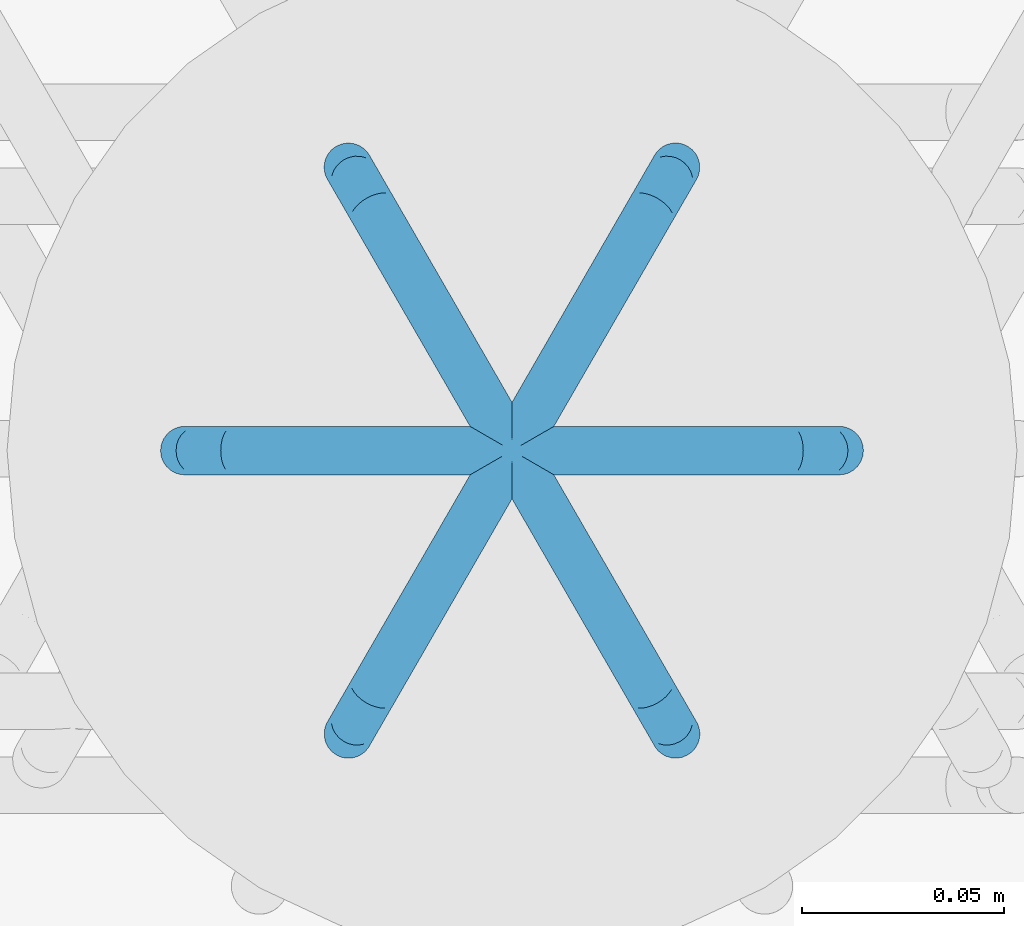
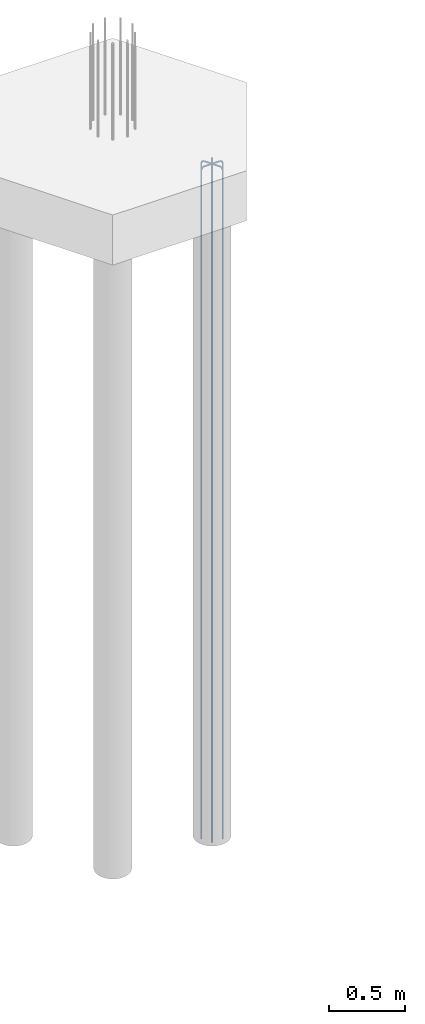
# One storey, part 13 of 23: 1 reinforcing bar.
"""IFC2X3 building model written with IfcOpenShell, lengths in metres."""

from ifc_helpers import new_model, entity, si_unit, direction, frame, origin, place, context, subcontext, project, spatial, shape, source, transform, mapped, element, save


model = new_model("IFC2X3")

# Units and contexts
model_context = context("Model", 3, precision=0.0, world=origin(), true_north=direction((0.0, 1.0)))
plan_context = context("Plan", 3, precision=0.0, world=origin(), true_north=direction((0.0, 1.0)))
body_context = subcontext(model_context, "Body", "Model", "MODEL_VIEW", scale=1.0)
ifc_project = project(units=[si_unit("LENGTHUNIT", "METRE"), si_unit("AREAUNIT", "SQUARE_METRE"), si_unit("VOLUMEUNIT", "CUBIC_METRE"), si_unit("PLANEANGLEUNIT", "RADIAN"), si_unit("THERMODYNAMICTEMPERATUREUNIT", "DEGREE_CELSIUS"), si_unit("FORCEUNIT", "NEWTON"), si_unit("MASSUNIT", "GRAM", prefix="KILO")], contexts=[model_context, plan_context])

# Site, building, storey
placement = place(None, origin())
site = spatial("IfcSite", under=ifc_project, at=placement, Name="Default Site", CompositionType="ELEMENT")
building = spatial("IfcBuilding", under=site, at=placement, Name="Default Building", CompositionType="ELEMENT")
storey_placement = place(placement, frame((0.0, 0.0, 0.0), z_axis=(1.0, 0.0, 0.0), x_axis=(0.0, 0.0, 1.0)))
storey = spatial("IfcBuildingStorey", under=building, at=storey_placement, Name="Piano 0", CompositionType="ELEMENT", Elevation=0.0)

# Reinforcing bar
shared_shape_1 = source(origin(), body_context, None, "AdvancedSweptSolid", [
    entity("IfcSweptDiskSolid", entity("IfcCompositeCurve", [entity("IfcCompositeCurveSegment", "CONTINUOUS", True, entity("IfcPolyline", [entity("IfcCartesianPoint", [0.0, 0.0, 0.0]), entity("IfcCartesianPoint", [-0.096, 0.0, 0.0]), entity("IfcCartesianPoint", [-0.108, 0.0, -0.003215]), entity("IfcCartesianPoint", [-0.116785, 0.0, -0.012]), entity("IfcCartesianPoint", [-0.12, 0.0, -0.024]), entity("IfcCartesianPoint", [-0.12, 0.0, -5.366])]))], False), 0.006, 0.0, 0.0),
])
shared_shape_2 = source(origin(), body_context, None, "AdvancedSweptSolid", [
    entity("IfcSweptDiskSolid", entity("IfcCompositeCurve", [entity("IfcCompositeCurveSegment", "CONTINUOUS", True, entity("IfcPolyline", [entity("IfcCartesianPoint", [0.0, 0.0, 0.0]), entity("IfcCartesianPoint", [-0.096, 0.0, 0.0]), entity("IfcCartesianPoint", [-0.108, 0.0, -0.003215]), entity("IfcCartesianPoint", [-0.116785, 0.0, -0.012]), entity("IfcCartesianPoint", [-0.12, 0.0, -0.024]), entity("IfcCartesianPoint", [-0.12, 0.0, -5.366])]))], False), 0.006, 0.0, 0.0),
])
shared_shape_3 = source(origin(), body_context, None, "AdvancedSweptSolid", [
    entity("IfcSweptDiskSolid", entity("IfcCompositeCurve", [entity("IfcCompositeCurveSegment", "CONTINUOUS", True, entity("IfcPolyline", [entity("IfcCartesianPoint", [0.0, 0.0, 0.0]), entity("IfcCartesianPoint", [-0.096, 0.0, 0.0]), entity("IfcCartesianPoint", [-0.108, 0.0, -0.003215]), entity("IfcCartesianPoint", [-0.116785, 0.0, -0.012]), entity("IfcCartesianPoint", [-0.12, 0.0, -0.024]), entity("IfcCartesianPoint", [-0.12, 0.0, -5.366])]))], False), 0.006, 0.0, 0.0),
])
shared_shape_4 = source(origin(), body_context, None, "AdvancedSweptSolid", [
    entity("IfcSweptDiskSolid", entity("IfcCompositeCurve", [entity("IfcCompositeCurveSegment", "CONTINUOUS", True, entity("IfcPolyline", [entity("IfcCartesianPoint", [0.0, 0.0, 0.0]), entity("IfcCartesianPoint", [-0.096, 0.0, 0.0]), entity("IfcCartesianPoint", [-0.108, 0.0, -0.003215]), entity("IfcCartesianPoint", [-0.116785, 0.0, -0.012]), entity("IfcCartesianPoint", [-0.12, 0.0, -0.024]), entity("IfcCartesianPoint", [-0.12, 0.0, -5.366])]))], False), 0.006, 0.0, 0.0),
])
shared_shape_5 = source(origin(), body_context, None, "AdvancedSweptSolid", [
    entity("IfcSweptDiskSolid", entity("IfcCompositeCurve", [entity("IfcCompositeCurveSegment", "CONTINUOUS", True, entity("IfcPolyline", [entity("IfcCartesianPoint", [0.0, 0.0, 0.0]), entity("IfcCartesianPoint", [-0.096, 0.0, 0.0]), entity("IfcCartesianPoint", [-0.108, 0.0, -0.003215]), entity("IfcCartesianPoint", [-0.116785, 0.0, -0.012]), entity("IfcCartesianPoint", [-0.12, 0.0, -0.024]), entity("IfcCartesianPoint", [-0.12, 0.0, -5.366])]))], False), 0.006, 0.0, 0.0),
])
shared_shape_6 = source(origin(), body_context, None, "AdvancedSweptSolid", [
    entity("IfcSweptDiskSolid", entity("IfcCompositeCurve", [entity("IfcCompositeCurveSegment", "CONTINUOUS", True, entity("IfcPolyline", [entity("IfcCartesianPoint", [0.0, 0.0, 0.0]), entity("IfcCartesianPoint", [-0.096, 0.0, 0.0]), entity("IfcCartesianPoint", [-0.108, 0.0, -0.003215]), entity("IfcCartesianPoint", [-0.116785, 0.0, -0.012]), entity("IfcCartesianPoint", [-0.12, 0.0, -0.024]), entity("IfcCartesianPoint", [-0.12, 0.0, -5.366])]))], False), 0.006, 0.0, 0.0),
])
element("IfcReinforcingBar", 1, at=placement, inside=storey, Name="Arm Principale; Palo:6 Filo:3 [Piano:0]", BarLength=32.916, BarRole="MAIN", BarSurface="TEXTURED", NominalDiameter=0.012, shapes=[
    shape(body_context, None, "MappedRepresentation", [mapped(shared_shape_1, transform((8.414, -0.65, -0.034))), mapped(shared_shape_2, transform((8.3945, -0.616225, -0.034), x_axis=(0.5, 0.866025, 0.0), y_axis=(-0.866025, 0.5, 0.0))), mapped(shared_shape_3, transform((8.3555, -0.616225, -0.034), x_axis=(-0.5, 0.866025, 0.0), y_axis=(-0.866025, -0.5, 0.0))), mapped(shared_shape_4, transform((8.336, -0.65, -0.034), x_axis=(-1.0, 0.0, 0.0), y_axis=(0.0, -1.0, 0.0))), mapped(shared_shape_5, transform((8.3555, -0.683775, -0.034), x_axis=(-0.5, -0.866025, 0.0), y_axis=(0.866025, -0.5, 0.0))), mapped(shared_shape_6, transform((8.3945, -0.683775, -0.034), x_axis=(0.5, -0.866025, 0.0), y_axis=(0.866025, 0.5, 0.0)))]),
])

save(model, "model.ifc")
